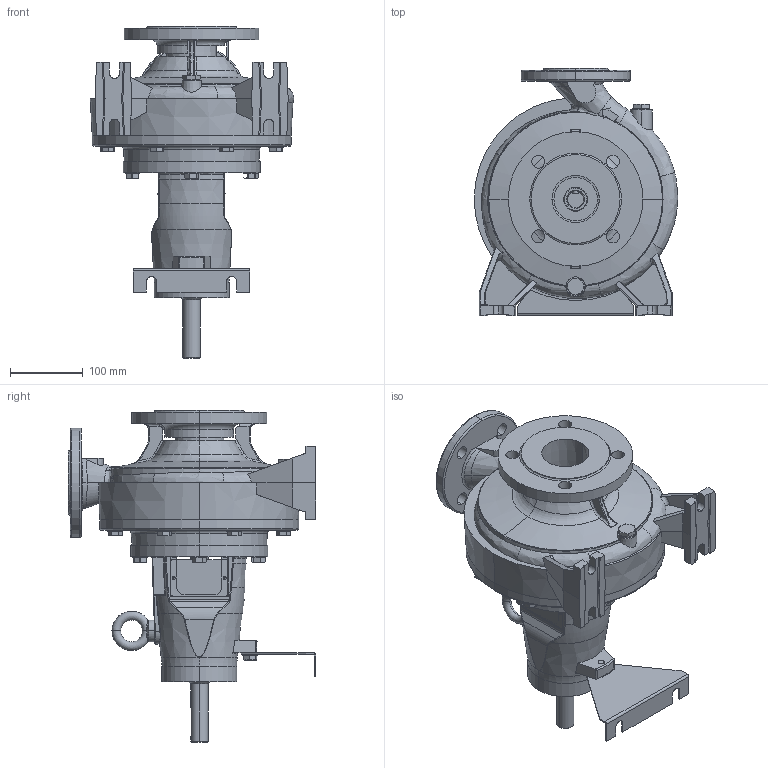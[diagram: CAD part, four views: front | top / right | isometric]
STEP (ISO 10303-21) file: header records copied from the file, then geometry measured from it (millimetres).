
FILE_DESCRIPTION (( 'STEP AP203' ), '1' );
FILE_NAME ('BSN 40 200.STEP', '2020-03-05T13:34:31', ( '' ), ( '' ), 'SwSTEP 2.0', 'SolidWorks 2019', '' );
FILE_SCHEMA (( 'CONFIG_CONTROL_DESIGN' ));
Length unit declared in the file: millimetre
Products named in the file (2): BSN 40 200
Bounding box: 279.55 x 340 x 456 mm (x, y, z)
Surface area: 551956.9 mm2 (no closed solid volume)
Topology: 0 solids, 50 shells, 792 faces, 2522 edges, 1746 vertices
Faces by surface type: plane 299, cylinder 229, bspline 116, cone 77, torus 59, sphere 12
Entity records: 39800 total; most frequent: CARTESIAN_POINT 19090, ORIENTED_EDGE 4204, DIRECTION 3874, EDGE_CURVE 2515, VERTEX_POINT 1746, AXIS2_PLACEMENT_3D 1449, LINE 976, VECTOR 976
